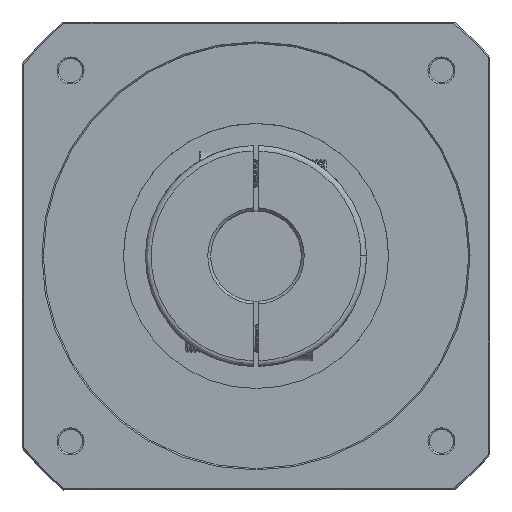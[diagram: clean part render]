
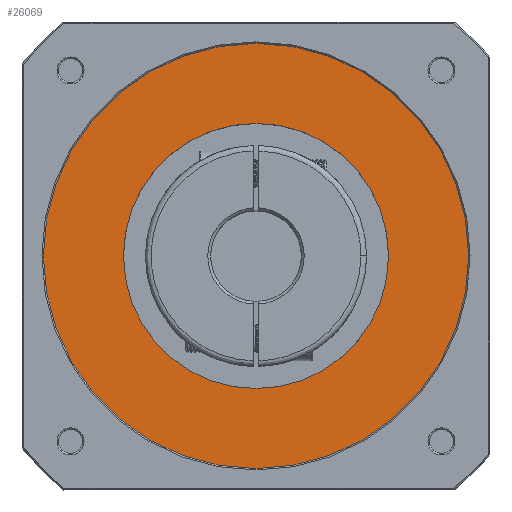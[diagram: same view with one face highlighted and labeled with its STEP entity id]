
A CAD part, top view. The second image highlights one B-rep face of the part: STEP entity #26069.
In plain terms, the highlighted planar face has unit normal (0, 0, -1).
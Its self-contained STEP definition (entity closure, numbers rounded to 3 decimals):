
#1057 = EDGE_LOOP ( 'NONE', ( #24736, #69209 ) ) ;
#12854 = EDGE_LOOP ( 'NONE', ( #56811, #15870 ) ) ;
#15870 = ORIENTED_EDGE ( 'NONE', *, *, #78383, .T. ) ;
#17029 = CARTESIAN_POINT ( 'NONE',  ( -75., 0., 157.5 ) ) ;
#18536 = PLANE ( 'NONE',  #39814 ) ;
#18888 = DIRECTION ( 'NONE',  ( 0., 0., 1. ) ) ;
#19987 = CIRCLE ( 'NONE', #35118, 75. ) ;
#20181 = CIRCLE ( 'NONE', #69256, 46.75 ) ;
#22253 = CARTESIAN_POINT ( 'NONE',  ( -46.75, 0., 157.5 ) ) ;
#22919 = DIRECTION ( 'NONE',  ( 0., 0., -1. ) ) ;
#24736 = ORIENTED_EDGE ( 'NONE', *, *, #34584, .T. ) ;
#24852 = CARTESIAN_POINT ( 'NONE',  ( 0., 0., 157.5 ) ) ;
#25349 = EDGE_CURVE ( 'NONE', #94664, #102263, #19987, .T. ) ;
#26069 = ADVANCED_FACE ( 'NONE', ( #43331, #95242 ), #18536, .F. ) ;
#26596 = AXIS2_PLACEMENT_3D ( 'NONE', #24852, #80153, #32764 ) ;
#32492 = CARTESIAN_POINT ( 'NONE',  ( 0., 0., 157.5 ) ) ;
#32764 = DIRECTION ( 'NONE',  ( -1., 0., 0. ) ) ;
#34584 = EDGE_CURVE ( 'NONE', #81159, #47539, #55495, .T. ) ;
#35118 = AXIS2_PLACEMENT_3D ( 'NONE', #70309, #22919, #78235 ) ;
#39814 = AXIS2_PLACEMENT_3D ( 'NONE', #66315, #18888, #74281 ) ;
#40465 = DIRECTION ( 'NONE',  ( 1., 0., 0. ) ) ;
#43331 = FACE_BOUND ( 'NONE', #1057, .T. ) ;
#43475 = DIRECTION ( 'NONE',  ( 0., 0., 1. ) ) ;
#45489 = CARTESIAN_POINT ( 'NONE',  ( 75., 0., 157.5 ) ) ;
#47539 = VERTEX_POINT ( 'NONE', #84863 ) ;
#55495 = CIRCLE ( 'NONE', #26596, 46.75 ) ;
#56811 = ORIENTED_EDGE ( 'NONE', *, *, #25349, .T. ) ;
#66315 = CARTESIAN_POINT ( 'NONE',  ( -75.9, -75.9, 157.5 ) ) ;
#69209 = ORIENTED_EDGE ( 'NONE', *, *, #74774, .T. ) ;
#69256 = AXIS2_PLACEMENT_3D ( 'NONE', #90802, #43475, #98753 ) ;
#70309 = CARTESIAN_POINT ( 'NONE',  ( 0., 0., 157.5 ) ) ;
#74281 = DIRECTION ( 'NONE',  ( 1., 0., 0. ) ) ;
#74774 = EDGE_CURVE ( 'NONE', #47539, #81159, #20181, .T. ) ;
#77401 = AXIS2_PLACEMENT_3D ( 'NONE', #32492, #87838, #40465 ) ;
#78235 = DIRECTION ( 'NONE',  ( 1., 0., 0. ) ) ;
#78383 = EDGE_CURVE ( 'NONE', #102263, #94664, #94892, .T. ) ;
#80153 = DIRECTION ( 'NONE',  ( 0., 0., 1. ) ) ;
#81159 = VERTEX_POINT ( 'NONE', #22253 ) ;
#84863 = CARTESIAN_POINT ( 'NONE',  ( 46.75, 0., 157.5 ) ) ;
#87838 = DIRECTION ( 'NONE',  ( 0., 0., -1. ) ) ;
#90802 = CARTESIAN_POINT ( 'NONE',  ( 0., 0., 157.5 ) ) ;
#94664 = VERTEX_POINT ( 'NONE', #45489 ) ;
#94892 = CIRCLE ( 'NONE', #77401, 75. ) ;
#95242 = FACE_OUTER_BOUND ( 'NONE', #12854, .T. ) ;
#98753 = DIRECTION ( 'NONE',  ( -1., 0., 0. ) ) ;
#102263 = VERTEX_POINT ( 'NONE', #17029 ) ;
